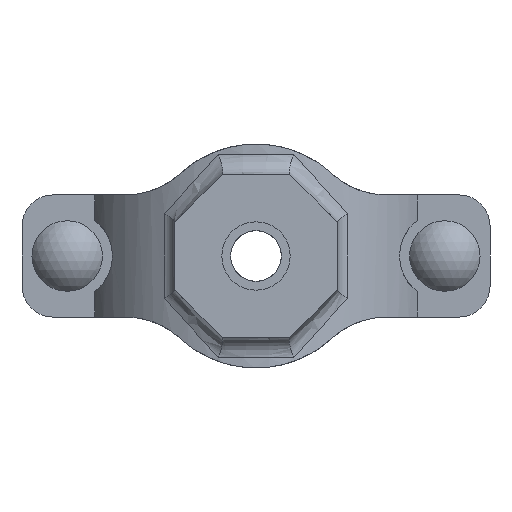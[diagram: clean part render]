
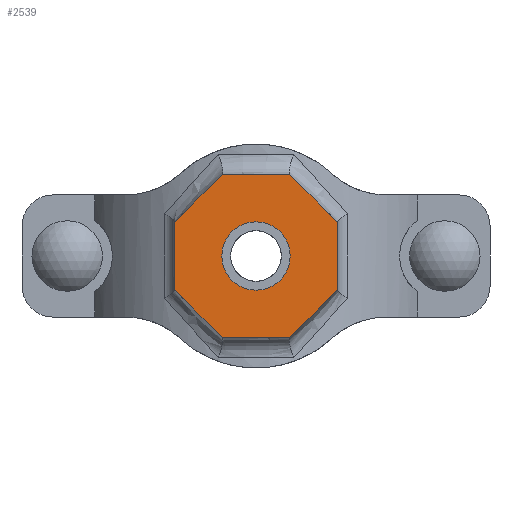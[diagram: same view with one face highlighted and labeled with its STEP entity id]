
A CAD part, front view. The second image highlights one B-rep face of the part: STEP entity #2539.
In plain terms, the highlighted planar face has unit normal (0, -1, 0) as drawn and (0, 1, 0) by its records, which use the part's own axes.
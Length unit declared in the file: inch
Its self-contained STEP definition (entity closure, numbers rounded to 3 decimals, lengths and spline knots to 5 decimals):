
#186=FACE_BOUND('',#459,.T.);
#307=FACE_OUTER_BOUND('',#458,.T.);
#458=EDGE_LOOP('',(#2138,#2139,#2140,#2141,#2142,#2143,#2144,#2145));
#459=EDGE_LOOP('',(#2146));
#594=LINE('',#4593,#780);
#597=LINE('',#4598,#783);
#599=LINE('',#4602,#785);
#601=LINE('',#4606,#787);
#641=LINE('',#4999,#827);
#643=LINE('',#5003,#829);
#645=LINE('',#5007,#831);
#647=LINE('',#5010,#833);
#780=VECTOR('',#3278,0.3937);
#783=VECTOR('',#3283,0.3937);
#785=VECTOR('',#3287,0.3937);
#787=VECTOR('',#3291,0.3937);
#827=VECTOR('',#3427,0.3937);
#829=VECTOR('',#3431,0.3937);
#831=VECTOR('',#3435,0.3937);
#833=VECTOR('',#3439,0.3937);
#919=CIRCLE('',#2802,0.42);
#1097=VERTEX_POINT('',#4590);
#1098=VERTEX_POINT('',#4592);
#1099=VERTEX_POINT('',#4596);
#1100=VERTEX_POINT('',#4600);
#1101=VERTEX_POINT('',#4604);
#1136=VERTEX_POINT('',#4844);
#1160=VERTEX_POINT('',#4998);
#1161=VERTEX_POINT('',#5002);
#1162=VERTEX_POINT('',#5006);
#1408=EDGE_CURVE('',#1098,#1097,#594,.T.);
#1411=EDGE_CURVE('',#1097,#1099,#597,.T.);
#1413=EDGE_CURVE('',#1099,#1100,#599,.T.);
#1415=EDGE_CURVE('',#1100,#1101,#601,.T.);
#1461=EDGE_CURVE('',#1136,#1136,#919,.T.);
#1495=EDGE_CURVE('',#1160,#1098,#641,.T.);
#1497=EDGE_CURVE('',#1161,#1160,#643,.T.);
#1499=EDGE_CURVE('',#1162,#1161,#645,.T.);
#1501=EDGE_CURVE('',#1101,#1162,#647,.T.);
#2138=ORIENTED_EDGE('',*,*,#1501,.T.);
#2139=ORIENTED_EDGE('',*,*,#1499,.T.);
#2140=ORIENTED_EDGE('',*,*,#1497,.T.);
#2141=ORIENTED_EDGE('',*,*,#1495,.T.);
#2142=ORIENTED_EDGE('',*,*,#1408,.T.);
#2143=ORIENTED_EDGE('',*,*,#1411,.T.);
#2144=ORIENTED_EDGE('',*,*,#1413,.T.);
#2145=ORIENTED_EDGE('',*,*,#1415,.T.);
#2146=ORIENTED_EDGE('',*,*,#1461,.T.);
#2280=PLANE('',#2825);
#2539=ADVANCED_FACE('',(#307,#186),#2280,.T.);
#2802=AXIS2_PLACEMENT_3D('',#4845,#3369,#3370);
#2825=AXIS2_PLACEMENT_3D('',#5011,#3440,#3441);
#3278=DIRECTION('',(0.,0.,1.));
#3283=DIRECTION('',(0.707,0.,0.707));
#3287=DIRECTION('',(1.,0.,0.));
#3291=DIRECTION('',(0.707,0.,-0.707));
#3369=DIRECTION('center_axis',(0.,-1.,0.));
#3370=DIRECTION('ref_axis',(-1.,0.,0.));
#3427=DIRECTION('',(-0.707,0.,0.707));
#3431=DIRECTION('',(-1.,0.,0.));
#3435=DIRECTION('',(-0.707,0.,-0.707));
#3439=DIRECTION('',(0.,0.,-1.));
#3440=DIRECTION('center_axis',(0.,1.,0.));
#3441=DIRECTION('ref_axis',(0.,0.,1.));
#4590=CARTESIAN_POINT('',(-1.,3.05,0.41421));
#4592=CARTESIAN_POINT('',(-1.,3.05,-0.41421));
#4593=CARTESIAN_POINT('',(-1.,3.05,0.41421));
#4596=CARTESIAN_POINT('',(-0.41421,3.05,1.));
#4598=CARTESIAN_POINT('',(-0.41421,3.05,1.));
#4600=CARTESIAN_POINT('',(0.41421,3.05,1.));
#4602=CARTESIAN_POINT('',(0.41421,3.05,1.));
#4604=CARTESIAN_POINT('',(1.,3.05,0.41421));
#4606=CARTESIAN_POINT('',(1.,3.05,0.41421));
#4844=CARTESIAN_POINT('',(0.42,3.05,0.));
#4845=CARTESIAN_POINT('Origin',(0.,3.05,0.));
#4998=CARTESIAN_POINT('',(-0.41421,3.05,-1.));
#4999=CARTESIAN_POINT('',(-1.,3.05,-0.41421));
#5002=CARTESIAN_POINT('',(0.41421,3.05,-1.));
#5003=CARTESIAN_POINT('',(-0.41421,3.05,-1.));
#5006=CARTESIAN_POINT('',(1.,3.05,-0.41421));
#5007=CARTESIAN_POINT('',(0.41421,3.05,-1.));
#5010=CARTESIAN_POINT('',(1.,3.05,-0.41421));
#5011=CARTESIAN_POINT('Origin',(0.,3.05,0.));
